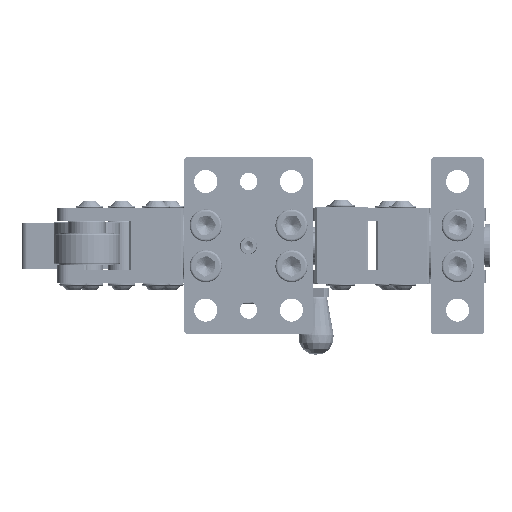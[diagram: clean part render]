
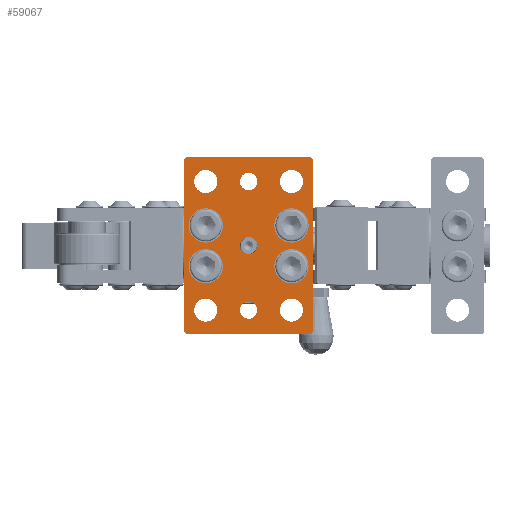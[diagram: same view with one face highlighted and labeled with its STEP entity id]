
A CAD part, left-side view. The second image highlights one B-rep face of the part: STEP entity #59067.
In plain terms, the highlighted planar face has unit normal (-1, 0, 0) as drawn and (0, 0, -1) by its records, which use the part's own axes.
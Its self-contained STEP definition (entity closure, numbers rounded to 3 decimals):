
#5247=FACE_BOUND('',#13763,.T.);
#5248=FACE_BOUND('',#13764,.T.);
#5249=FACE_BOUND('',#13765,.T.);
#5250=FACE_BOUND('',#13766,.T.);
#5251=FACE_BOUND('',#13767,.T.);
#5252=FACE_BOUND('',#13768,.T.);
#5253=FACE_BOUND('',#13769,.T.);
#5254=FACE_BOUND('',#13770,.T.);
#5255=FACE_BOUND('',#13771,.T.);
#5256=FACE_BOUND('',#13772,.T.);
#5257=FACE_BOUND('',#13773,.T.);
#7050=PLANE('',#62118);
#9968=FACE_OUTER_BOUND('',#13762,.T.);
#13762=EDGE_LOOP('',(#53424,#53425,#53426,#53427,#53428,#53429,#53430,#53431));
#13763=EDGE_LOOP('',(#53432));
#13764=EDGE_LOOP('',(#53433));
#13765=EDGE_LOOP('',(#53434));
#13766=EDGE_LOOP('',(#53435));
#13767=EDGE_LOOP('',(#53436));
#13768=EDGE_LOOP('',(#53437));
#13769=EDGE_LOOP('',(#53438));
#13770=EDGE_LOOP('',(#53439));
#13771=EDGE_LOOP('',(#53440));
#13772=EDGE_LOOP('',(#53441));
#13773=EDGE_LOOP('',(#53442));
#19288=LINE('',#100849,#24761);
#19295=LINE('',#100861,#24768);
#19301=LINE('',#100873,#24774);
#19303=LINE('',#100877,#24776);
#19305=LINE('',#100883,#24778);
#19307=LINE('',#100887,#24780);
#19312=LINE('',#100895,#24785);
#19315=LINE('',#100946,#24788);
#24761=VECTOR('',#72168,2.828);
#24768=VECTOR('',#72177,161.);
#24774=VECTOR('',#72187,2.828);
#24776=VECTOR('',#72191,116.);
#24778=VECTOR('',#72197,2.828);
#24780=VECTOR('',#72201,161.);
#24785=VECTOR('',#72208,2.828);
#24788=VECTOR('',#72275,116.);
#25964=CIRCLE('',#62044,8.05);
#25967=CIRCLE('',#62048,8.05);
#25968=CIRCLE('',#62050,8.05);
#25971=CIRCLE('',#62056,10.75);
#25975=CIRCLE('',#62063,10.75);
#25979=CIRCLE('',#62070,10.75);
#25982=CIRCLE('',#62076,10.75);
#25989=CIRCLE('',#62097,16.);
#25992=CIRCLE('',#62103,16.);
#25995=CIRCLE('',#62109,16.);
#25998=CIRCLE('',#62115,16.);
#30718=VERTEX_POINT('',#100790);
#30721=VERTEX_POINT('',#100797);
#30722=VERTEX_POINT('',#100800);
#30725=VERTEX_POINT('',#100809);
#30729=VERTEX_POINT('',#100820);
#30733=VERTEX_POINT('',#100831);
#30736=VERTEX_POINT('',#100840);
#30739=VERTEX_POINT('',#100846);
#30740=VERTEX_POINT('',#100848);
#30744=VERTEX_POINT('',#100859);
#30748=VERTEX_POINT('',#100871);
#30749=VERTEX_POINT('',#100875);
#30750=VERTEX_POINT('',#100880);
#30751=VERTEX_POINT('',#100882);
#30752=VERTEX_POINT('',#100886);
#30761=VERTEX_POINT('',#100915);
#30764=VERTEX_POINT('',#100924);
#30767=VERTEX_POINT('',#100933);
#30770=VERTEX_POINT('',#100942);
#38442=EDGE_CURVE('',#30718,#30718,#25964,.T.);
#38445=EDGE_CURVE('',#30721,#30721,#25967,.T.);
#38446=EDGE_CURVE('',#30722,#30722,#25968,.T.);
#38449=EDGE_CURVE('',#30725,#30725,#25971,.T.);
#38453=EDGE_CURVE('',#30729,#30729,#25975,.T.);
#38457=EDGE_CURVE('',#30733,#30733,#25979,.T.);
#38460=EDGE_CURVE('',#30736,#30736,#25982,.T.);
#38463=EDGE_CURVE('',#30739,#30740,#19288,.T.);
#38470=EDGE_CURVE('',#30739,#30744,#19295,.T.);
#38476=EDGE_CURVE('',#30748,#30744,#19301,.T.);
#38478=EDGE_CURVE('',#30748,#30749,#19303,.T.);
#38480=EDGE_CURVE('',#30750,#30751,#19305,.T.);
#38482=EDGE_CURVE('',#30752,#30751,#19307,.T.);
#38487=EDGE_CURVE('',#30752,#30749,#19312,.T.);
#38496=EDGE_CURVE('',#30761,#30761,#25989,.T.);
#38499=EDGE_CURVE('',#30764,#30764,#25992,.T.);
#38502=EDGE_CURVE('',#30767,#30767,#25995,.T.);
#38505=EDGE_CURVE('',#30770,#30770,#25998,.T.);
#38506=EDGE_CURVE('',#30750,#30740,#19315,.T.);
#53424=ORIENTED_EDGE('',*,*,#38463,.F.);
#53425=ORIENTED_EDGE('',*,*,#38470,.T.);
#53426=ORIENTED_EDGE('',*,*,#38476,.F.);
#53427=ORIENTED_EDGE('',*,*,#38478,.T.);
#53428=ORIENTED_EDGE('',*,*,#38487,.F.);
#53429=ORIENTED_EDGE('',*,*,#38482,.T.);
#53430=ORIENTED_EDGE('',*,*,#38480,.F.);
#53431=ORIENTED_EDGE('',*,*,#38506,.T.);
#53432=ORIENTED_EDGE('',*,*,#38442,.T.);
#53433=ORIENTED_EDGE('',*,*,#38445,.T.);
#53434=ORIENTED_EDGE('',*,*,#38446,.T.);
#53435=ORIENTED_EDGE('',*,*,#38449,.T.);
#53436=ORIENTED_EDGE('',*,*,#38453,.T.);
#53437=ORIENTED_EDGE('',*,*,#38457,.T.);
#53438=ORIENTED_EDGE('',*,*,#38460,.T.);
#53439=ORIENTED_EDGE('',*,*,#38496,.T.);
#53440=ORIENTED_EDGE('',*,*,#38499,.T.);
#53441=ORIENTED_EDGE('',*,*,#38502,.T.);
#53442=ORIENTED_EDGE('',*,*,#38505,.T.);
#59067=ADVANCED_FACE('',(#9968,#5247,#5248,#5249,#5250,#5251,#5252,#5253,
#5254,#5255,#5256,#5257),#7050,.F.);
#62044=AXIS2_PLACEMENT_3D('',#100791,#72098,#72099);
#62048=AXIS2_PLACEMENT_3D('',#100798,#72106,#72107);
#62050=AXIS2_PLACEMENT_3D('',#100801,#72110,#72111);
#62056=AXIS2_PLACEMENT_3D('',#100810,#72122,#72123);
#62063=AXIS2_PLACEMENT_3D('',#100821,#72136,#72137);
#62070=AXIS2_PLACEMENT_3D('',#100832,#72150,#72151);
#62076=AXIS2_PLACEMENT_3D('',#100841,#72162,#72163);
#62097=AXIS2_PLACEMENT_3D('',#100916,#72233,#72234);
#62103=AXIS2_PLACEMENT_3D('',#100925,#72245,#72246);
#62109=AXIS2_PLACEMENT_3D('',#100934,#72257,#72258);
#62115=AXIS2_PLACEMENT_3D('',#100943,#72269,#72270);
#62118=AXIS2_PLACEMENT_3D('',#100947,#72276,#72277);
#72098=DIRECTION('center_axis',(0.,0.,1.));
#72099=DIRECTION('ref_axis',(1.,0.,0.));
#72106=DIRECTION('center_axis',(0.,0.,1.));
#72107=DIRECTION('ref_axis',(1.,0.,0.));
#72110=DIRECTION('center_axis',(0.,0.,1.));
#72111=DIRECTION('ref_axis',(1.,0.,0.));
#72122=DIRECTION('center_axis',(0.,0.,1.));
#72123=DIRECTION('ref_axis',(1.,0.,0.));
#72136=DIRECTION('center_axis',(0.,0.,1.));
#72137=DIRECTION('ref_axis',(1.,0.,0.));
#72150=DIRECTION('center_axis',(0.,0.,1.));
#72151=DIRECTION('ref_axis',(1.,0.,0.));
#72162=DIRECTION('center_axis',(0.,0.,1.));
#72163=DIRECTION('ref_axis',(1.,0.,0.));
#72168=DIRECTION('',(-0.707,-0.707,0.));
#72177=DIRECTION('',(1.,0.,0.));
#72187=DIRECTION('',(-0.707,0.707,0.));
#72191=DIRECTION('',(0.,-1.,0.));
#72197=DIRECTION('',(0.707,-0.707,0.));
#72201=DIRECTION('',(-1.,0.,0.));
#72208=DIRECTION('',(0.707,0.707,0.));
#72233=DIRECTION('center_axis',(0.,0.,1.));
#72234=DIRECTION('ref_axis',(-1.,0.,0.));
#72245=DIRECTION('center_axis',(0.,0.,1.));
#72246=DIRECTION('ref_axis',(-1.,0.,0.));
#72257=DIRECTION('center_axis',(0.,0.,1.));
#72258=DIRECTION('ref_axis',(-1.,0.,0.));
#72269=DIRECTION('center_axis',(0.,0.,1.));
#72270=DIRECTION('ref_axis',(-1.,0.,0.));
#72275=DIRECTION('',(0.,1.,0.));
#72276=DIRECTION('center_axis',(0.,0.,1.));
#72277=DIRECTION('ref_axis',(1.,0.,0.));
#100790=CARTESIAN_POINT('',(-8.05,0.,0.));
#100791=CARTESIAN_POINT('Origin',(0.,0.,0.));
#100797=CARTESIAN_POINT('',(-51.95,0.,0.));
#100798=CARTESIAN_POINT('Origin',(-60.,0.,0.));
#100800=CARTESIAN_POINT('',(68.05,0.,0.));
#100801=CARTESIAN_POINT('Origin',(60.,0.,0.));
#100809=CARTESIAN_POINT('',(70.75,-40.,0.));
#100810=CARTESIAN_POINT('Origin',(60.,-40.,0.));
#100820=CARTESIAN_POINT('',(-49.25,40.,0.));
#100821=CARTESIAN_POINT('Origin',(-60.,40.,0.));
#100831=CARTESIAN_POINT('',(-49.25,-40.,0.));
#100832=CARTESIAN_POINT('Origin',(-60.,-40.,0.));
#100840=CARTESIAN_POINT('',(70.75,40.,0.));
#100841=CARTESIAN_POINT('Origin',(60.,40.,0.));
#100846=CARTESIAN_POINT('',(-80.5,60.,0.));
#100848=CARTESIAN_POINT('',(-82.5,58.,0.));
#100849=CARTESIAN_POINT('',(-75.875,64.625,0.));
#100859=CARTESIAN_POINT('',(80.5,60.,0.));
#100861=CARTESIAN_POINT('',(-82.5,60.,0.));
#100871=CARTESIAN_POINT('',(82.5,58.,0.));
#100873=CARTESIAN_POINT('',(75.875,64.625,0.));
#100875=CARTESIAN_POINT('',(82.5,-58.,0.));
#100877=CARTESIAN_POINT('',(82.5,60.,0.));
#100880=CARTESIAN_POINT('',(-82.5,-58.,0.));
#100882=CARTESIAN_POINT('',(-80.5,-60.,0.));
#100883=CARTESIAN_POINT('',(-75.875,-64.625,0.));
#100886=CARTESIAN_POINT('',(80.5,-60.,0.));
#100887=CARTESIAN_POINT('',(82.5,-60.,0.));
#100895=CARTESIAN_POINT('',(75.875,-64.625,0.));
#100915=CARTESIAN_POINT('',(-35.,-40.,0.));
#100916=CARTESIAN_POINT('Origin',(-19.,-40.,0.));
#100924=CARTESIAN_POINT('',(3.,40.,0.));
#100925=CARTESIAN_POINT('Origin',(19.,40.,0.));
#100933=CARTESIAN_POINT('',(3.,-40.,0.));
#100934=CARTESIAN_POINT('Origin',(19.,-40.,0.));
#100942=CARTESIAN_POINT('',(-35.,40.,0.));
#100943=CARTESIAN_POINT('Origin',(-19.,40.,0.));
#100946=CARTESIAN_POINT('',(-82.5,-60.,0.));
#100947=CARTESIAN_POINT('Origin',(0.,0.,0.));
